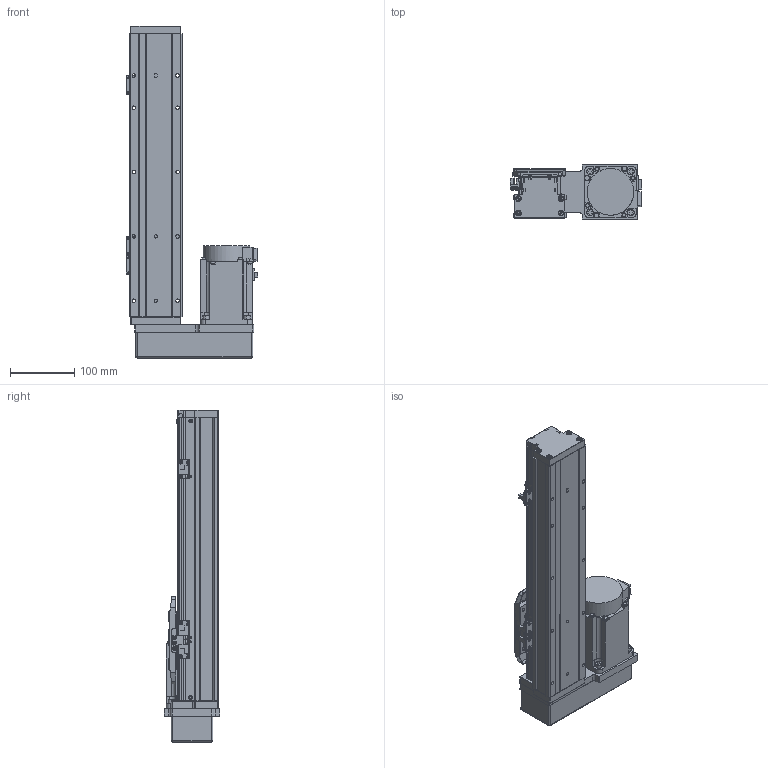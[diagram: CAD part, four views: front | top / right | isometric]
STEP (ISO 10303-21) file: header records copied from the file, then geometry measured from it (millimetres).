
FILE_DESCRIPTION (( 'STEP AP203' ), '1' );
FILE_NAME ('GTH8-250-BR-M75-C4.step', '2023-02-14T02:32:53', ( '微软用户' ), ( '微软中国' ), 'SwSTEP 2.0', 'SolidWorks 2020', '' );
FILE_SCHEMA (( 'CONFIG_CONTROL_DESIGN' ));
Length unit declared in the file: millimetre
Products named in the file (18): GBT 70.1-M3℅6; CTHA86-015-3_CTHA86-015-4; GTH80-003; GBT 70.1-M4×16; CTHA86-035; GTH80-001_250; GTH80-004; GTH80-028; hg-kn73j_-s100; GTH80-006; GTH50-024; GTH8-250-BR-M75-C4; GTH80-013; GTH50-023; GBT 70.3-M3℅6; GBT96.1-2002 3×0.8; GTH80-022; BTH-M3X5X6
Assembly tree (57 placements, depth 2):
  GTH8-250-BR-M75-C4
    GTH80-001_250
    GTH80-003
    GTH80-004
    GTH80-006
    GTH80-013
    GBT 70.3-M3℅6  x4
    GTH80-022
    GBT 70.1-M3℅6  x14
    GBT 70.1-M4×16  x8
    GTH80-028  x2
    GTH50-024  x3
    GTH50-023  x3
    GBT96.1-2002 3×0.8  x6
    BTH-M3X5X6  x8
    CTHA86-015-3_CTHA86-015-4
    CTHA86-035
    hg-kn73j_-s100
Bounding box: 204.7 x 87 x 516 mm (x, y, z)
Volume: 3452714.5 mm3; surface area: 388720.5 mm2
Topology: 59 solids, 59 shells, 2183 faces, 5058 edges, 3096 vertices
Faces by surface type: plane 1153, cylinder 615, cone 243, torus 158, sphere 12, bspline 2
Entity records: 39144 total; most frequent: CARTESIAN_POINT 6575, DIRECTION 6445, ORIENTED_EDGE 5926, EDGE_CURVE 2963, AXIS2_PLACEMENT_3D 2266, LINE 1913, VECTOR 1913, VERTEX_POINT 1871
